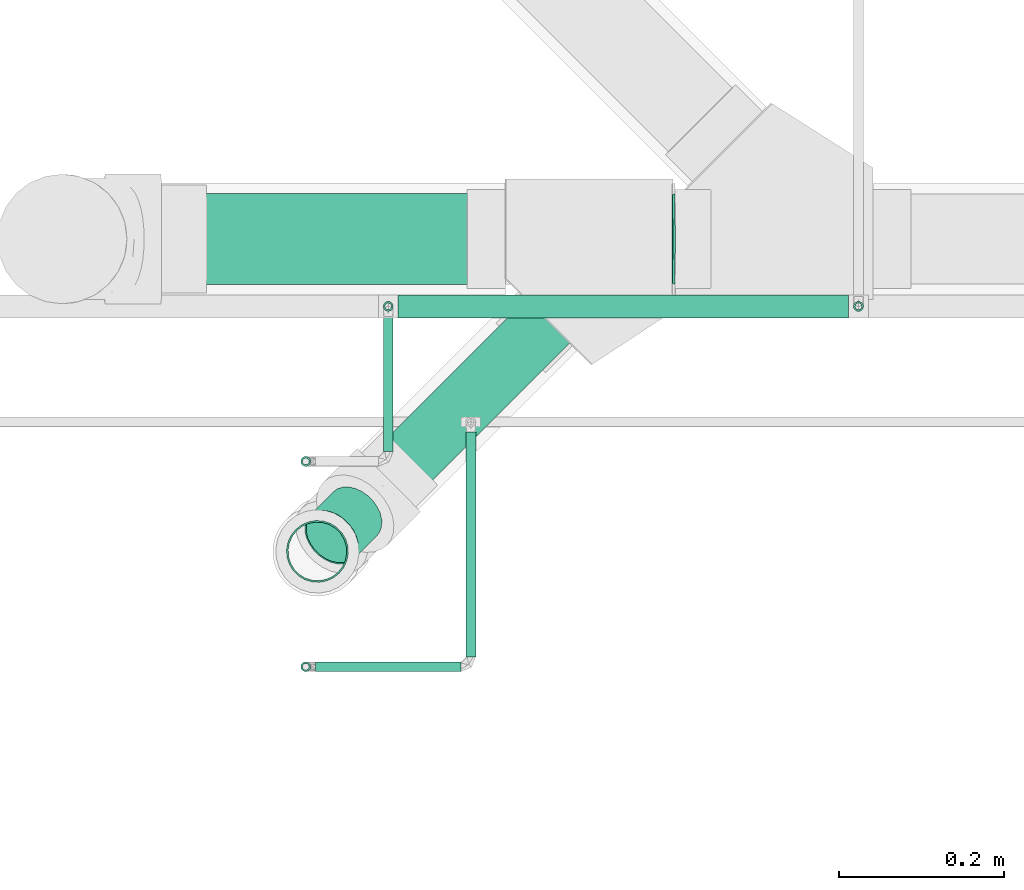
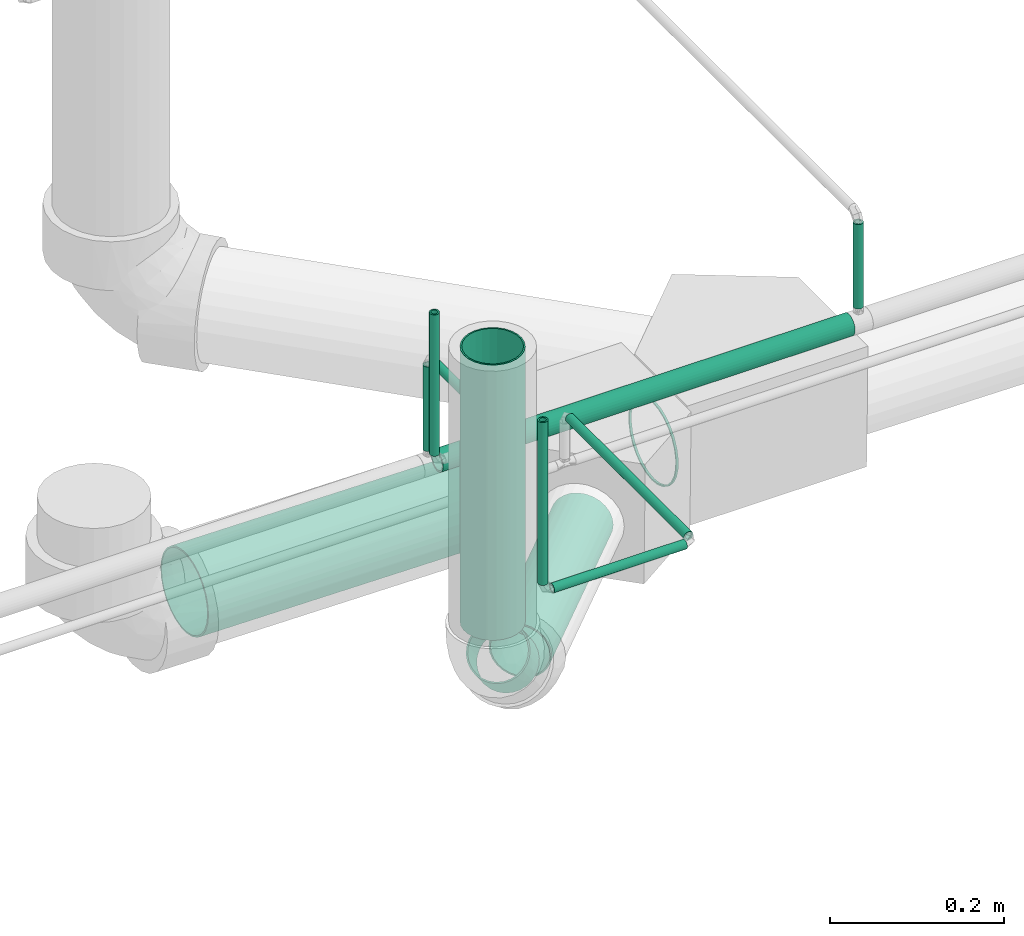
# One storey, part 40 of 108: 13 flow segments.
"""IFC2X3 building model written with IfcOpenShell, lengths in millimetres."""

from ifc_helpers import new_model, entity, si_unit, converted_unit, derived_unit, direction, frame, origin_with_axes, origin_2d_with_axis, place, context, subcontext, project, spatial, hollow_circle, extrude, source, transform, mapped, type_object, element, save


model = new_model("IFC2X3")

# Units and contexts
model_context = context("Model", 3, precision=0.01, world=frame((0.0, 4.29681676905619e-09, 0.0)), true_north=direction((4.01073788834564e-13, 1.0)))
plan_context = context("Plan", 3, precision=0.01, world=frame((0.0, 4.29681676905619e-09, 0.0)), true_north=direction((4.01073788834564e-13, 1.0)))
body_context = subcontext(model_context, "Body", "Model", "MODEL_VIEW")
ifc_project = project(units=[converted_unit("PLANEANGLEUNIT", "DEGREE", entity("IfcPositiveLengthMeasure", 0.0174532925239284), si_unit("PLANEANGLEUNIT", "RADIAN"), dimensions=[0, 0, 0, 0, 0, 0, 0]), si_unit("AREAUNIT", "SQUARE_METRE"), si_unit("LENGTHUNIT", "METRE", prefix="MILLI"), si_unit("MASSUNIT", "GRAM", prefix="KILO"), si_unit("POWERUNIT", "WATT"), si_unit("PRESSUREUNIT", "PASCAL", prefix="KILO"), si_unit("FORCEUNIT", "NEWTON", prefix="KILO"), si_unit("ELECTRICVOLTAGEUNIT", "VOLT"), si_unit("ELECTRICCURRENTUNIT", "AMPERE"), si_unit("THERMODYNAMICTEMPERATUREUNIT", "DEGREE_CELSIUS"), si_unit("TIMEUNIT", "SECOND"), si_unit("VOLUMEUNIT", "CUBIC_METRE"), derived_unit("LINEARVELOCITYUNIT", [(si_unit("LENGTHUNIT", "METRE"), 1), (si_unit("TIMEUNIT", "SECOND"), -1)]), derived_unit("VOLUMETRICFLOWRATEUNIT", [(si_unit("VOLUMEUNIT", "CUBIC_METRE"), 1), (si_unit("TIMEUNIT", "SECOND"), -1)]), derived_unit("THERMALTRANSMITTANCEUNIT", [(si_unit("POWERUNIT", "WATT"), 1), (si_unit("THERMODYNAMICTEMPERATUREUNIT", "KELVIN"), -1), (si_unit("AREAUNIT", "SQUARE_METRE"), -1)]), derived_unit("SOUNDPRESSUREUNIT", [(si_unit("PRESSUREUNIT", "PASCAL"), 1)])], contexts=[model_context, plan_context])

# Site, building, storey
site_placement = place(None, frame((0.0, -4.29681676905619e-09, 0.0), z_axis=(0.0, 0.0, 1.0), x_axis=(1.0, 0.0, 0.0)))
site = spatial("IfcSite", under=ifc_project, at=site_placement, CompositionType="ELEMENT")
building_placement = place(site_placement, frame((0.0, 4.29681676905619e-09, 0.0), z_axis=(0.0, 0.0, 1.0), x_axis=(1.0, 0.0, 0.0)))
building = spatial("IfcBuilding", under=site, at=building_placement, Name="mc-building", CompositionType="ELEMENT")
storey_placement = place(building_placement, frame((0.0, 0.0, 210200.0), z_axis=(0.0, 0.0, 1.0), x_axis=(1.0, 0.0, 0.0)))
storey = spatial("IfcBuildingStorey", under=building, at=storey_placement, Name="Nivå F - 0,7 m", CompositionType="ELEMENT", Elevation=210200.0)

# Flow segments
pipe_segment_type_1 = type_object("IfcPipeSegmentType", Name="MA", PredefinedType="RIGIDSEGMENT")
shared_shape_1 = source(origin_with_axes(), body_context, "Body", "SweptSolid", [
    extrude(hollow_circle(Radius=55.0, WallThickness=2.0, at=origin_2d_with_axis()), frame((0.0, 0.0, 0.0), z_axis=(1.0, 0.0, 0.0), x_axis=(0.0, 1.0, 0.0)), (0.0, 0.0, 1.0), 3.0),
])
flow_segment_1_placement = place(storey_placement, frame((326568.19537, 463531.64264, 3095.27202), z_axis=(-4.099998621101e-05, -0.99999166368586, -0.00408299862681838), x_axis=(0.999950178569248, -2.41441949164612e-07, -0.00998200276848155)))
element("IfcFlowSegment", 1, at=flow_segment_1_placement, inside=storey, type_object=pipe_segment_type_1, Name="MA", context=body_context, shape_type="MappedRepresentation", body=[
    mapped(shared_shape_1, transform((0.0, 0.0, 0.0), scale=1.0)),
])
shared_shape_2 = source(origin_with_axes(), body_context, "Body", "SweptSolid", [
    extrude(hollow_circle(Radius=55.0, WallThickness=2.0, at=origin_2d_with_axis()), frame((0.0, 0.0, 0.0), z_axis=(1.0, 0.0, 0.0), x_axis=(0.0, 1.0, 0.0)), (0.0, 0.0, 1.0), 417.3),
])
flow_segment_2_placement = place(storey_placement, frame((325948.64456, 463531.64264, 3101.45658999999), z_axis=(0.00998200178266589, 0.0, 0.999950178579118), x_axis=(0.999950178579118, 0.0, -0.00998200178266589)))
element("IfcFlowSegment", 2, at=flow_segment_2_placement, inside=storey, type_object=pipe_segment_type_1, Name="MA", context=body_context, shape_type="MappedRepresentation", body=[
    mapped(shared_shape_2, transform((0.0, 0.0, 0.0), scale=1.0)),
])
shared_shape_3 = source(origin_with_axes(), body_context, "Body", "SweptSolid", [
    extrude(hollow_circle(Radius=37.5, WallThickness=2.0, at=origin_2d_with_axis()), frame((0.0, 0.0, 0.0), z_axis=(1.0, 0.0, 0.0), x_axis=(0.0, 1.0, 0.0)), (0.0, 0.0, 1.0), 272.9),
])
flow_segment_3_placement = place(storey_placement, frame((326417.49213, 463432.44529, 3097.57904000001), z_axis=(0.00499100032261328, 0.00499600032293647, 0.99997506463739), x_axis=(-0.707113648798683, -0.707064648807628, 0.00706187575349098)))
element("IfcFlowSegment", 3, at=flow_segment_3_placement, inside=storey, type_object=pipe_segment_type_1, Name="MA", context=body_context, shape_type="MappedRepresentation", body=[
    mapped(shared_shape_3, transform((0.0, 0.0, 0.0), scale=1.0)),
])
shared_shape_4 = source(origin_with_axes(), body_context, "Body", "SweptSolid", [
    extrude(hollow_circle(Radius=37.5, WallThickness=2.0, at=origin_2d_with_axis()), frame((0.0, 0.0, 0.0), z_axis=(1.0, 0.0, 0.0), x_axis=(0.0, 1.0, 0.0)), (0.0, 0.0, 1.0), 57.3),
])
flow_segment_4_placement = place(storey_placement, frame((326183.86075, 463198.82722, 3123.66485), z_axis=(0.499999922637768, 0.499999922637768, 0.707106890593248), x_axis=(-0.50000007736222, -0.50000007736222, 0.70710667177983)))
element("IfcFlowSegment", 4, at=flow_segment_4_placement, inside=storey, type_object=pipe_segment_type_1, Name="MA", context=body_context, shape_type="MappedRepresentation", body=[
    mapped(shared_shape_4, transform((0.0, 0.0, 0.0), scale=1.0)),
])
shared_shape_5 = source(origin_with_axes(), body_context, "Body", "SweptSolid", [
    extrude(hollow_circle(Radius=37.5, WallThickness=2.0, at=origin_2d_with_axis()), frame((0.0, 0.0, 0.0), z_axis=(1.0, 0.0, 0.0), x_axis=(0.0, 1.0, 0.0)), (0.0, 0.0, 1.0), 385.8),
])
flow_segment_5_placement = place(storey_placement, frame((326138.13322, 463153.0997, 3222.50596000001), z_axis=(0.707106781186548, 0.707106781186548, 0.0), x_axis=(0.0, 0.0, 1.0)))
element("IfcFlowSegment", 5, at=flow_segment_5_placement, inside=storey, type_object=pipe_segment_type_1, Name="MA", context=body_context, shape_type="MappedRepresentation", body=[
    mapped(shared_shape_5, transform((0.0, 0.0, 0.0), scale=1.0)),
])
pipe_segment_type_2 = type_object("IfcPipeSegmentType", Name="Kobberrør", PredefinedType="RIGIDSEGMENT")
shared_shape_6 = source(origin_with_axes(), body_context, "Body", "SweptSolid", [
    extrude(hollow_circle(Radius=6.0, WallThickness=2.0, at=origin_2d_with_axis()), frame((0.0, 0.0, 0.0), z_axis=(1.0, 0.0, 0.0), x_axis=(0.0, 1.0, 0.0)), (0.0, 0.0, 1.0), 163.8),
])
flow_segment_6_placement = place(storey_placement, frame((326224.00629, 463274.15197, 3385.0), z_axis=(0.0, 0.0, 1.0), x_axis=(0.0, 1.0, 0.0)))
element("IfcFlowSegment", 6, at=flow_segment_6_placement, inside=storey, type_object=pipe_segment_type_2, Name="Kobberrør", context=body_context, shape_type="MappedRepresentation", body=[
    mapped(shared_shape_6, transform((0.0, 0.0, 0.0), scale=1.0)),
])
shared_shape_7 = source(origin_with_axes(), body_context, "Body", "SweptSolid", [
    extrude(hollow_circle(Radius=6.0, WallThickness=2.0, at=origin_2d_with_axis()), frame((0.0, 0.0, 0.0), z_axis=(1.0, 0.0, 0.0), x_axis=(0.0, 1.0, 0.0)), (0.0, 0.0, 1.0), 176.0),
])
flow_segment_7_placement = place(storey_placement, frame((326136.00629, 463013.37423, 3355.0), z_axis=(0.0, 0.0, 1.0), x_axis=(1.0, 0.0, 0.0)))
element("IfcFlowSegment", 7, at=flow_segment_7_placement, inside=storey, type_object=pipe_segment_type_2, Name="Kobberrør", context=body_context, shape_type="MappedRepresentation", body=[
    mapped(shared_shape_7, transform((0.0, 0.0, 0.0), scale=1.0)),
])
shared_shape_8 = source(origin_with_axes(), body_context, "Body", "SweptSolid", [
    extrude(hollow_circle(Radius=6.0, WallThickness=2.0, at=origin_2d_with_axis()), frame((0.0, 0.0, 0.0), z_axis=(1.0, 0.0, 0.0), x_axis=(0.0, 1.0, 0.0)), (0.0, 0.0, 1.0), 272.6),
])
flow_segment_8_placement = place(storey_placement, frame((326324.00629, 463025.37423, 3355.0), z_axis=(0.0, 0.0, 1.0), x_axis=(0.0, 1.0, 0.0)))
element("IfcFlowSegment", 8, at=flow_segment_8_placement, inside=storey, type_object=pipe_segment_type_2, Name="Kobberrør", context=body_context, shape_type="MappedRepresentation", body=[
    mapped(shared_shape_8, transform((0.0, 0.0, 0.0), scale=1.0)),
])
shared_shape_9 = source(origin_with_axes(), body_context, "Body", "SweptSolid", [
    extrude(hollow_circle(Radius=6.0, WallThickness=2.0, at=origin_2d_with_axis()), frame((0.0, 0.0, 0.0), z_axis=(1.0, 0.0, 0.0), x_axis=(0.0, 1.0, 0.0)), (0.0, 0.0, 1.0), 118.4),
])
for number, where, z_axis, x_axis in (
    (9, (326793.72018, 463450.0, 3254.60013000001), (0.0, -1.0, 0.0), (0.0, 0.0, 1.0)),
    (10, (326224.00629, 463450.0, 3254.60013000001), (0.0, 1.0, 0.0), (0.0, 0.0, 1.0)),
):
    element("IfcFlowSegment", number, at=place(storey_placement, frame(where, z_axis=z_axis, x_axis=x_axis)), inside=storey, type_object=pipe_segment_type_2, Name="Kobberrør", context=body_context, shape_type="MappedRepresentation", body=[
        mapped(shared_shape_9, transform((0.0, 0.0, 0.0), scale=1.0)),
    ])
shared_shape_10 = source(origin_with_axes(), body_context, "Body", "SweptSolid", [
    extrude(hollow_circle(Radius=14.0, WallThickness=2.0, at=origin_2d_with_axis()), frame((0.0, 0.0, 0.0), z_axis=(1.0, 0.0, 0.0), x_axis=(0.0, 1.0, 0.0)), (0.0, 0.0, 1.0), 545.7),
])
flow_segment_9_placement = place(storey_placement, frame((326236.00629, 463450.0, 3233.60013000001), z_axis=(0.0, 0.0, 1.0), x_axis=(1.0, 0.0, 0.0)))
element("IfcFlowSegment", 11, at=flow_segment_9_placement, inside=storey, type_object=pipe_segment_type_2, Name="Kobberrør", context=body_context, shape_type="MappedRepresentation", body=[
    mapped(shared_shape_10, transform((0.0, 0.0, 0.0), scale=1.0)),
])
shared_shape_11 = source(origin_with_axes(), body_context, "Body", "SweptSolid", [
    extrude(hollow_circle(Radius=6.0, WallThickness=2.0, at=origin_2d_with_axis()), frame((0.0, 0.0, 0.0), z_axis=(1.0, 0.0, 0.0), x_axis=(0.0, 1.0, 0.0)), (0.0, 0.0, 1.0), 228.0),
])
flow_segment_10_placement = place(storey_placement, frame((326124.00629, 463013.37423, 3367.0), z_axis=(1.0, 0.0, 0.0), x_axis=(0.0, 0.0, 1.0)))
element("IfcFlowSegment", 12, at=flow_segment_10_placement, inside=storey, type_object=pipe_segment_type_2, Name="Kobberrør", context=body_context, shape_type="MappedRepresentation", body=[
    mapped(shared_shape_11, transform((0.0, 0.0, 0.0), scale=1.0)),
])
shared_shape_12 = source(origin_with_axes(), body_context, "Body", "SweptSolid", [
    extrude(hollow_circle(Radius=6.0, WallThickness=2.0, at=origin_2d_with_axis()), frame((0.0, 0.0, 0.0), z_axis=(1.0, 0.0, 0.0), x_axis=(0.0, 1.0, 0.0)), (0.0, 0.0, 1.0), 198.0),
])
flow_segment_11_placement = place(storey_placement, frame((326124.00629, 463262.15197, 3397.0), z_axis=(1.0, 0.0, 0.0), x_axis=(0.0, 0.0, 1.0)))
element("IfcFlowSegment", 13, at=flow_segment_11_placement, inside=storey, type_object=pipe_segment_type_2, Name="Kobberrør", context=body_context, shape_type="MappedRepresentation", body=[
    mapped(shared_shape_12, transform((0.0, 0.0, 0.0), scale=1.0)),
])

save(model, "model.ifc")
